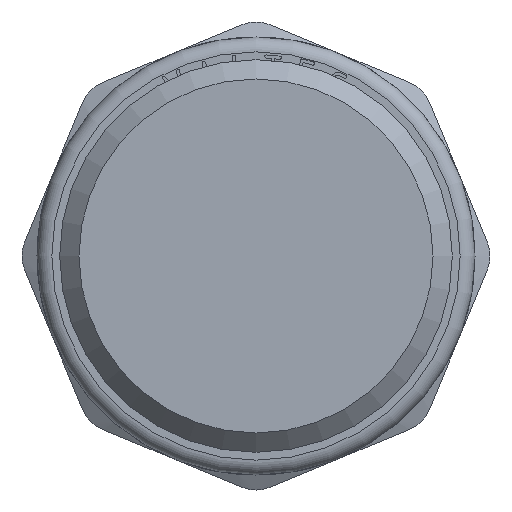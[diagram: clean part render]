
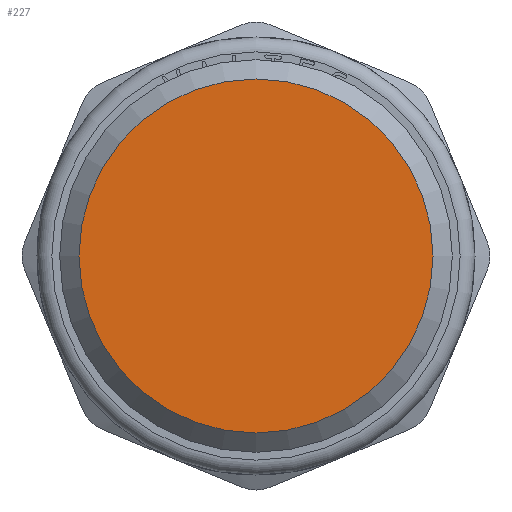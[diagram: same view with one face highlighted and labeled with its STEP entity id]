
A CAD part, front view. The second image highlights one B-rep face of the part: STEP entity #227.
In plain terms, the highlighted planar face has unit normal (0, -1, 0).
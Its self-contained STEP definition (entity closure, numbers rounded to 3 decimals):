
#227=ADVANCED_FACE('',(#1482),#1484,.T.);
#1482=FACE_BOUND('',#1483,.T.);
#1483=EDGE_LOOP('',(#2651));
#1484=PLANE('',#1485);
#1485=AXIS2_PLACEMENT_3D('',#1486,#1487,#1488);
#1486=CARTESIAN_POINT('',(0.,0.,0.));
#1487=DIRECTION('',(0.,-1.,0.));
#1488=DIRECTION('',(1.,0.,0.));
#2651=ORIENTED_EDGE('',*,*,#3126,.T.);
#3126=EDGE_CURVE('',#3915,#3915,#3916,.T.);
#3915=VERTEX_POINT('',#7669);
#3916=CIRCLE('',#7670,11.921);
#7669=CARTESIAN_POINT('',(11.921,0.,0.));
#7670=AXIS2_PLACEMENT_3D('',#7671,#7672,#7673);
#7671=CARTESIAN_POINT('',(0.,0.,0.));
#7672=DIRECTION('',(0.,-1.,0.));
#7673=DIRECTION('',(1.,0.,0.));
